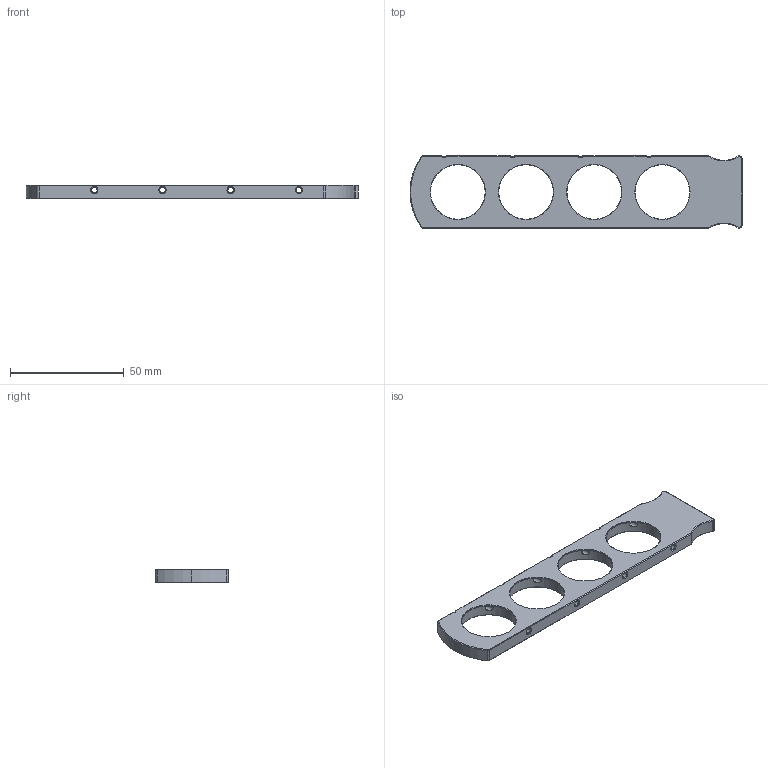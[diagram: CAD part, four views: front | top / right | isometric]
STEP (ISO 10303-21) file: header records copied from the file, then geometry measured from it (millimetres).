
FILE_DESCRIPTION (( 'STEP AP214' ), '1' );
FILE_NAME ('C60-SLIDE-4 (CATALOG MODEL).STEP', '2025-07-09T19:01:33', ( '' ), ( '' ), 'SwSTEP 2.0', 'SolidWorks 2023', '' );
FILE_SCHEMA (( 'AUTOMOTIVE_DESIGN' ));
Length unit declared in the file: inch
Products named in the file (1): C60-SLIDE-4 (CATALOG MODEL)
Bounding box: 146.05 x 31.8 x 6 mm (x, y, z)
Volume: 14960.7 mm3; surface area: 9590.2 mm2
Topology: 1 solids, 1 shells, 146 faces, 335 edges, 195 vertices
Faces by surface type: cone 71, cylinder 48, plane 27
Entity records: 5057 total; most frequent: CARTESIAN_POINT 1661, DIRECTION 744, ORIENTED_EDGE 670, EDGE_CURVE 335, AXIS2_PLACEMENT_3D 298, VERTEX_POINT 195, EDGE_LOOP 174, CIRCLE 151
